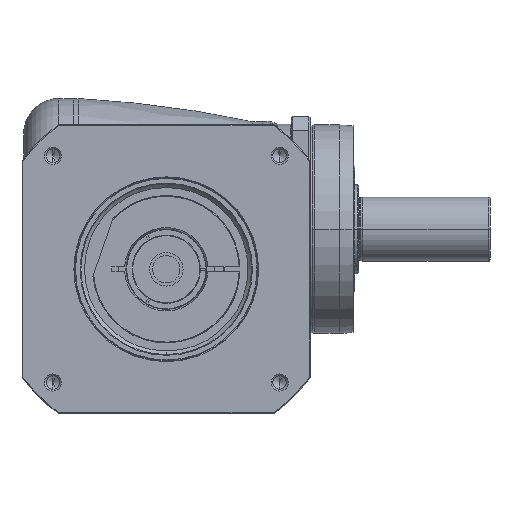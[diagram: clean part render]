
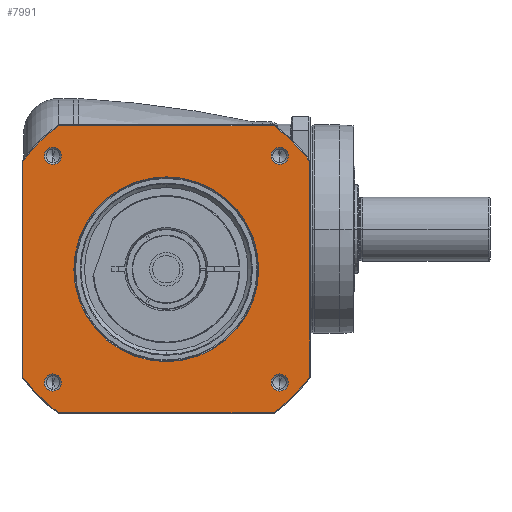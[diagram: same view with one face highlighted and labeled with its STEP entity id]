
A CAD part, front view. The second image highlights one B-rep face of the part: STEP entity #7991.
In plain terms, the highlighted planar face has unit normal (0, -1, 0) as drawn and (0, 0, 1) by its records, which use the part's own axes.
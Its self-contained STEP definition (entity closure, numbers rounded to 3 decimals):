
#6724=DIRECTION('',(1.,0.,0.));
#6725=VECTOR('',#6724,134.666);
#6726=CARTESIAN_POINT('',(-67.333,-89.5,41.));
#6727=LINE('',#6726,#6725);
#6737=CARTESIAN_POINT('',(0.,0.,
41.));
#6738=DIRECTION('',(0.,0.,-1.));
#6739=DIRECTION('',(0.,-1.,0.));
#6740=AXIS2_PLACEMENT_3D('',#6737,#6738,#6739);
#6742=CARTESIAN_POINT('',(0.,0.,
41.));
#6743=DIRECTION('',(0.,0.,-1.));
#6744=DIRECTION('',(0.,1.,0.));
#6745=AXIS2_PLACEMENT_3D('',#6742,#6743,#6744);
#6747=CARTESIAN_POINT('',(0.,0.,41.));
#6748=DIRECTION('',(0.,0.,1.));
#6749=DIRECTION('',(-0.799,-0.601,0.));
#6750=AXIS2_PLACEMENT_3D('',#6747,#6748,#6749);
#6762=DIRECTION('',(0.,-1.,0.));
#6763=VECTOR('',#6762,134.666);
#6764=CARTESIAN_POINT('',(-89.5,67.333,41.));
#6765=LINE('',#6764,#6763);
#6775=CARTESIAN_POINT('',(0.,0.,41.));
#6776=DIRECTION('',(0.,0.,1.));
#6777=DIRECTION('',(-0.601,0.799,0.));
#6778=AXIS2_PLACEMENT_3D('',#6775,#6776,#6777);
#6803=DIRECTION('',(-1.,0.,0.));
#6804=VECTOR('',#6803,134.666);
#6805=CARTESIAN_POINT('',(67.333,89.5,41.));
#6806=LINE('',#6805,#6804);
#6811=CARTESIAN_POINT('',(0.,0.,41.));
#6812=DIRECTION('',(0.,0.,1.));
#6813=DIRECTION('',(0.799,0.601,0.));
#6814=AXIS2_PLACEMENT_3D('',#6811,#6812,#6813);
#6826=DIRECTION('',(0.,1.,0.));
#6827=VECTOR('',#6826,134.666);
#6828=CARTESIAN_POINT('',(89.5,-67.333,41.));
#6829=LINE('',#6828,#6827);
#6931=CARTESIAN_POINT('',(0.,0.,41.));
#6932=DIRECTION('',(0.,0.,1.));
#6933=DIRECTION('',(0.601,-0.799,0.));
#6934=AXIS2_PLACEMENT_3D('',#6931,#6932,#6933);
#7208=CARTESIAN_POINT('',(-70.711,70.711,41.));
#7209=DIRECTION('',(0.,0.,1.));
#7210=DIRECTION('',(-1.,0.,0.));
#7211=AXIS2_PLACEMENT_3D('',#7208,#7209,#7210);
#7226=CARTESIAN_POINT('',(-70.711,70.711,41.));
#7227=DIRECTION('',(0.,0.,1.));
#7228=DIRECTION('',(1.,0.,0.));
#7229=AXIS2_PLACEMENT_3D('',#7226,#7227,#7228);
#7262=CARTESIAN_POINT('',(70.711,70.711,41.));
#7263=DIRECTION('',(0.,0.,1.));
#7264=DIRECTION('',(-1.,0.,0.));
#7265=AXIS2_PLACEMENT_3D('',#7262,#7263,#7264);
#7280=CARTESIAN_POINT('',(70.711,70.711,41.));
#7281=DIRECTION('',(0.,0.,1.));
#7282=DIRECTION('',(1.,0.,0.));
#7283=AXIS2_PLACEMENT_3D('',#7280,#7281,#7282);
#7316=CARTESIAN_POINT('',(70.711,-70.711,41.));
#7317=DIRECTION('',(0.,0.,1.));
#7318=DIRECTION('',(-1.,0.,0.));
#7319=AXIS2_PLACEMENT_3D('',#7316,#7317,#7318);
#7334=CARTESIAN_POINT('',(70.711,-70.711,41.));
#7335=DIRECTION('',(0.,0.,1.));
#7336=DIRECTION('',(1.,0.,0.));
#7337=AXIS2_PLACEMENT_3D('',#7334,#7335,#7336);
#7370=CARTESIAN_POINT('',(-70.711,-70.711,41.));
#7371=DIRECTION('',(0.,0.,1.));
#7372=DIRECTION('',(-1.,0.,0.));
#7373=AXIS2_PLACEMENT_3D('',#7370,#7371,#7372);
#7388=CARTESIAN_POINT('',(-70.711,-70.711,41.));
#7389=DIRECTION('',(0.,0.,1.));
#7390=DIRECTION('',(1.,0.,0.));
#7391=AXIS2_PLACEMENT_3D('',#7388,#7389,#7390);
#7432=CARTESIAN_POINT('',(89.5,-67.333,41.));
#7433=CARTESIAN_POINT('',(89.5,67.333,41.));
#7434=VERTEX_POINT('',#7432);
#7435=VERTEX_POINT('',#7433);
#7440=CARTESIAN_POINT('',(67.333,-89.5,41.));
#7441=VERTEX_POINT('',#7440);
#7444=CARTESIAN_POINT('',(-67.333,-89.5,41.));
#7445=VERTEX_POINT('',#7444);
#7448=CARTESIAN_POINT('',(-89.5,-67.333,41.));
#7449=VERTEX_POINT('',#7448);
#7452=CARTESIAN_POINT('',(-89.5,67.333,41.));
#7453=VERTEX_POINT('',#7452);
#7456=CARTESIAN_POINT('',(-67.333,89.5,41.));
#7457=VERTEX_POINT('',#7456);
#7460=CARTESIAN_POINT('',(67.333,89.5,41.));
#7461=VERTEX_POINT('',#7460);
#7510=CARTESIAN_POINT('',(-76.061,70.711,41.));
#7511=CARTESIAN_POINT('',(-65.361,70.711,41.));
#7512=VERTEX_POINT('',#7510);
#7513=VERTEX_POINT('',#7511);
#7544=CARTESIAN_POINT('',(76.061,70.711,41.));
#7545=CARTESIAN_POINT('',(65.361,70.711,41.));
#7546=VERTEX_POINT('',#7544);
#7547=VERTEX_POINT('',#7545);
#7552=CARTESIAN_POINT('',(76.061,-70.711,41.));
#7553=CARTESIAN_POINT('',(65.361,-70.711,41.));
#7554=VERTEX_POINT('',#7552);
#7555=VERTEX_POINT('',#7553);
#7560=CARTESIAN_POINT('',(-65.361,-70.711,41.));
#7561=CARTESIAN_POINT('',(-76.061,-70.711,41.));
#7562=VERTEX_POINT('',#7560);
#7563=VERTEX_POINT('',#7561);
#7568=CARTESIAN_POINT('',(0.,-57.65,41.));
#7569=CARTESIAN_POINT('',(0.,57.65,41.));
#7570=VERTEX_POINT('',#7568);
#7571=VERTEX_POINT('',#7569);
#7939=CARTESIAN_POINT('',(0.,0.,41.));
#7940=DIRECTION('',(0.,0.,1.));
#7941=DIRECTION('',(1.,0.,0.));
#7942=AXIS2_PLACEMENT_3D('',#7939,#7940,#7941);
#7943=PLANE('',#7942);
#7945=ORIENTED_EDGE('',*,*,#7944,.F.);
#7947=ORIENTED_EDGE('',*,*,#7946,.F.);
#7949=ORIENTED_EDGE('',*,*,#7948,.F.);
#7951=ORIENTED_EDGE('',*,*,#7950,.F.);
#7953=ORIENTED_EDGE('',*,*,#7952,.F.);
#7955=ORIENTED_EDGE('',*,*,#7954,.F.);
#7957=ORIENTED_EDGE('',*,*,#7956,.F.);
#7958=ORIENTED_EDGE('',*,*,#7929,.F.);
#7959=EDGE_LOOP('',(#7945,#7947,#7949,#7951,#7953,#7955,#7957,#7958));
#7960=FACE_OUTER_BOUND('',#7959,.F.);
#7962=ORIENTED_EDGE('',*,*,#7961,.F.);
#7964=ORIENTED_EDGE('',*,*,#7963,.F.);
#7965=EDGE_LOOP('',(#7962,#7964));
#7966=FACE_BOUND('',#7965,.F.);
#7968=ORIENTED_EDGE('',*,*,#7967,.T.);
#7970=ORIENTED_EDGE('',*,*,#7969,.T.);
#7971=EDGE_LOOP('',(#7968,#7970));
#7972=FACE_BOUND('',#7971,.F.);
#7974=ORIENTED_EDGE('',*,*,#7973,.T.);
#7976=ORIENTED_EDGE('',*,*,#7975,.T.);
#7977=EDGE_LOOP('',(#7974,#7976));
#7978=FACE_BOUND('',#7977,.F.);
#7980=ORIENTED_EDGE('',*,*,#7979,.T.);
#7982=ORIENTED_EDGE('',*,*,#7981,.T.);
#7983=EDGE_LOOP('',(#7980,#7982));
#7984=FACE_BOUND('',#7983,.F.);
#7986=ORIENTED_EDGE('',*,*,#7985,.T.);
#7988=ORIENTED_EDGE('',*,*,#7987,.T.);
#7989=EDGE_LOOP('',(#7986,#7988));
#7990=FACE_BOUND('',#7989,.F.);
#7991=ADVANCED_FACE('',(#7960,#7966,#7972,#7978,#7984,#7990),#7943,.T.);
#6741=CIRCLE('',#6740,57.65);
#6746=CIRCLE('',#6745,57.65);
#6751=CIRCLE('',#6750,112.);
#6779=CIRCLE('',#6778,112.);
#6815=CIRCLE('',#6814,112.);
#6935=CIRCLE('',#6934,112.);
#7212=CIRCLE('',#7211,5.35);
#7230=CIRCLE('',#7229,5.35);
#7266=CIRCLE('',#7265,5.35);
#7284=CIRCLE('',#7283,5.35);
#7320=CIRCLE('',#7319,5.35);
#7338=CIRCLE('',#7337,5.35);
#7374=CIRCLE('',#7373,5.35);
#7392=CIRCLE('',#7391,5.35);
#7929=EDGE_CURVE('',#7445,#7441,#6727,.T.);
#7944=EDGE_CURVE('',#7449,#7445,#6751,.T.);
#7946=EDGE_CURVE('',#7453,#7449,#6765,.T.);
#7948=EDGE_CURVE('',#7457,#7453,#6779,.T.);
#7950=EDGE_CURVE('',#7461,#7457,#6806,.T.);
#7952=EDGE_CURVE('',#7435,#7461,#6815,.T.);
#7954=EDGE_CURVE('',#7434,#7435,#6829,.T.);
#7956=EDGE_CURVE('',#7441,#7434,#6935,.T.);
#7961=EDGE_CURVE('',#7570,#7571,#6741,.T.);
#7963=EDGE_CURVE('',#7571,#7570,#6746,.T.);
#7967=EDGE_CURVE('',#7512,#7513,#7212,.T.);
#7969=EDGE_CURVE('',#7513,#7512,#7230,.T.);
#7973=EDGE_CURVE('',#7547,#7546,#7266,.T.);
#7975=EDGE_CURVE('',#7546,#7547,#7284,.T.);
#7979=EDGE_CURVE('',#7555,#7554,#7320,.T.);
#7981=EDGE_CURVE('',#7554,#7555,#7338,.T.);
#7985=EDGE_CURVE('',#7563,#7562,#7374,.T.);
#7987=EDGE_CURVE('',#7562,#7563,#7392,.T.);
